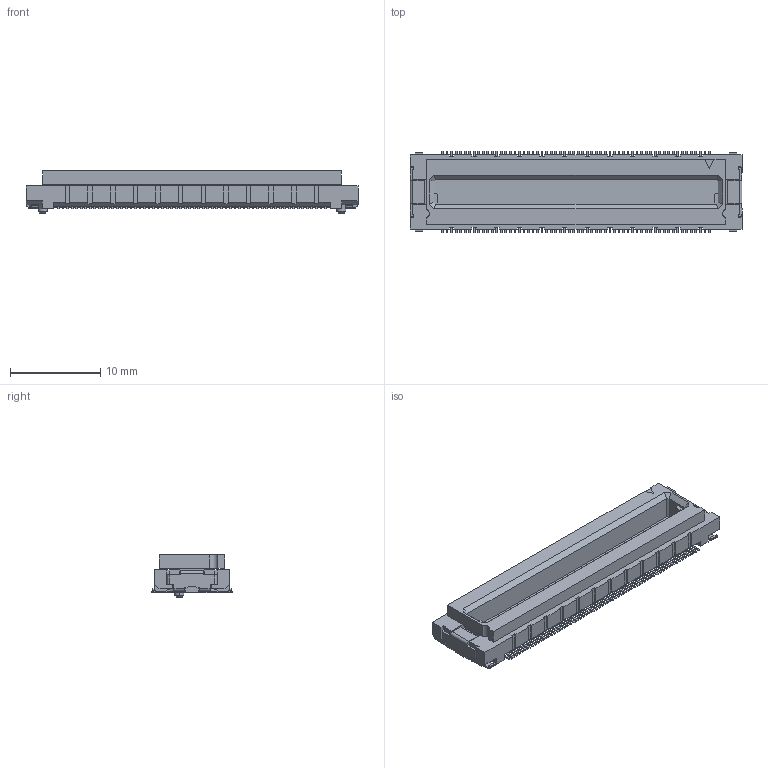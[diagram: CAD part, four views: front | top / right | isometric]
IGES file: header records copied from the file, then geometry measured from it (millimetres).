
Start section: Elysium IGES Interface
Global section: file name: 62HC:\Users\1315\Desktop\新しいフォルダー\P3A449_DY01-120S-XT.igs; native system: Creo Elements/Direct Modeling 19.0F  14-Feb-2017; preprocessor: Creo Element/Direct IGES_3D V2.2; author: Unknown; organization: Unknown; date: 20200117.103507; units: millimetre
Bounding box: 36.7 x 9 x 4.65 mm (x, y, z)
Volume: 766 mm3; surface area: 1657.1 mm2
Topology: 1 solids, 1 shells, 3615 faces, 10091 edges, 6722 vertices
Faces by surface type: bspline 3615
